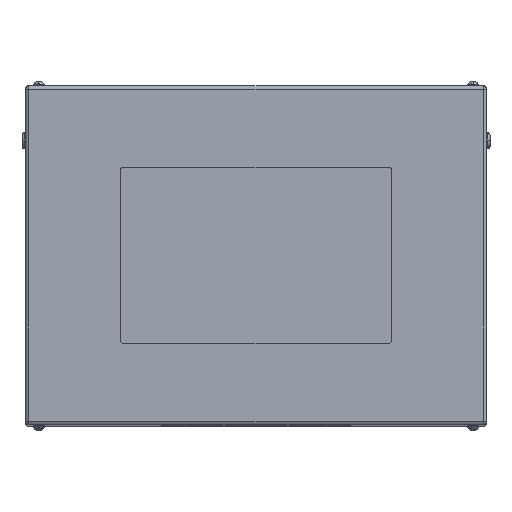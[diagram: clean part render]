
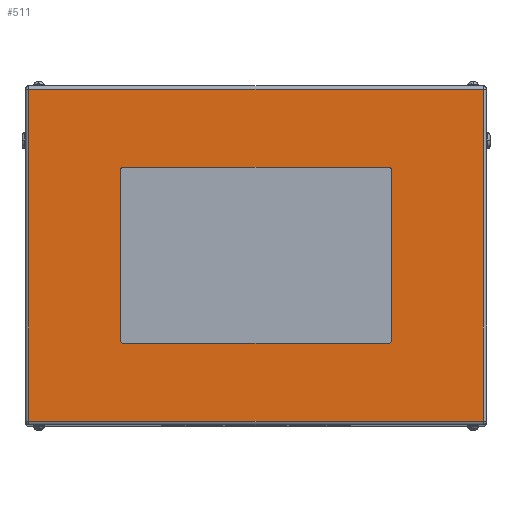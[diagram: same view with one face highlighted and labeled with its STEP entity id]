
A CAD part, top view. The second image highlights one B-rep face of the part: STEP entity #511.
In plain terms, the highlighted planar face has unit normal (0, 0, 1).
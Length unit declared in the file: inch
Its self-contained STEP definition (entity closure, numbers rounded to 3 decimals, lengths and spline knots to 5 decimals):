
#191 = VERTEX_POINT ( 'NONE', #4649 ) ;
#344 = AXIS2_PLACEMENT_3D ( 'NONE', #10480, #17794, #11862 ) ;
#511 = ADVANCED_FACE ( 'NONE', ( #1662, #16263 ), #16678, .F. ) ;
#546 = CARTESIAN_POINT ( 'NONE',  ( 16.734, -12.234, 29.5 ) ) ;
#931 = EDGE_CURVE ( 'NONE', #14119, #14737, #7476, .T. ) ;
#1243 = CARTESIAN_POINT ( 'NONE',  ( -16.734, 12.5, 29.5 ) ) ;
#1270 = EDGE_CURVE ( 'NONE', #7203, #14119, #6294, .T. ) ;
#1452 = LINE ( 'NONE', #14943, #1657 ) ;
#1657 = VECTOR ( 'NONE', #15064, 39.37008 ) ;
#1662 = FACE_BOUND ( 'NONE', #14121, .T. ) ;
#1960 = VERTEX_POINT ( 'NONE', #11572 ) ;
#2141 = ORIENTED_EDGE ( 'NONE', *, *, #16675, .F. ) ;
#2163 = AXIS2_PLACEMENT_3D ( 'NONE', #10614, #13468, #3407 ) ;
#2394 = ORIENTED_EDGE ( 'NONE', *, *, #12481, .T. ) ;
#2455 = DIRECTION ( 'NONE',  ( -1., 0., 0. ) ) ;
#2483 = DIRECTION ( 'NONE',  ( 0., -1., 0. ) ) ;
#2638 = LINE ( 'NONE', #4046, #17712 ) ;
#2840 = DIRECTION ( 'NONE',  ( 0., -1., 0. ) ) ;
#2893 = DIRECTION ( 'NONE',  ( -1., 0., 0. ) ) ;
#2964 = CARTESIAN_POINT ( 'NONE',  ( 10., 6.25, 29.5 ) ) ;
#3104 = CARTESIAN_POINT ( 'NONE',  ( -16.734, -12.234, 29.5 ) ) ;
#3183 = CARTESIAN_POINT ( 'NONE',  ( 16.734, 12.234, 29.5 ) ) ;
#3391 = DIRECTION ( 'NONE',  ( 1., 0., 0. ) ) ;
#3407 = DIRECTION ( 'NONE',  ( 1., 0., 0. ) ) ;
#3830 = DIRECTION ( 'NONE',  ( -1., 0., 0. ) ) ;
#3847 = VECTOR ( 'NONE', #14838, 39.37008 ) ;
#4046 = CARTESIAN_POINT ( 'NONE',  ( 16.734, -12.234, 29.5 ) ) ;
#4155 = CARTESIAN_POINT ( 'NONE',  ( -10., 6.25, 29.5 ) ) ;
#4294 = LINE ( 'NONE', #11894, #6534 ) ;
#4360 = ORIENTED_EDGE ( 'NONE', *, *, #1270, .F. ) ;
#4528 = EDGE_CURVE ( 'NONE', #16062, #6515, #15271, .T. ) ;
#4531 = EDGE_CURVE ( 'NONE', #13647, #16062, #17322, .T. ) ;
#4649 = CARTESIAN_POINT ( 'NONE',  ( 9.75, -6.5, 29.5 ) ) ;
#4663 = CARTESIAN_POINT ( 'NONE',  ( 10., 6.25, 29.5 ) ) ;
#4720 = VERTEX_POINT ( 'NONE', #10642 ) ;
#5613 = LINE ( 'NONE', #1243, #14387 ) ;
#6119 = EDGE_CURVE ( 'NONE', #4720, #13647, #17567, .T. ) ;
#6294 = LINE ( 'NONE', #4155, #10533 ) ;
#6515 = VERTEX_POINT ( 'NONE', #15702 ) ;
#6534 = VECTOR ( 'NONE', #16448, 39.37008 ) ;
#6666 = ORIENTED_EDGE ( 'NONE', *, *, #931, .F. ) ;
#6737 = CARTESIAN_POINT ( 'NONE',  ( 17., 12.234, 29.5 ) ) ;
#6744 = CARTESIAN_POINT ( 'NONE',  ( 17., 12.5, 29.5 ) ) ;
#7203 = VERTEX_POINT ( 'NONE', #17859 ) ;
#7476 = CIRCLE ( 'NONE', #344, 0.25 ) ;
#7815 = DIRECTION ( 'NONE',  ( 0., 0., 1. ) ) ;
#7884 = AXIS2_PLACEMENT_3D ( 'NONE', #12757, #18606, #2893 ) ;
#8010 = CIRCLE ( 'NONE', #14654, 0.25 ) ;
#8088 = EDGE_LOOP ( 'NONE', ( #10643, #14162, #15820, #2394 ) ) ;
#8198 = DIRECTION ( 'NONE',  ( 0., 0., -1. ) ) ;
#8588 = ORIENTED_EDGE ( 'NONE', *, *, #4531, .F. ) ;
#9813 = EDGE_CURVE ( 'NONE', #12215, #17089, #1452, .T. ) ;
#9831 = CARTESIAN_POINT ( 'NONE',  ( -10., -6.25, 29.5 ) ) ;
#9859 = CARTESIAN_POINT ( 'NONE',  ( -9.75, 6.5, 29.5 ) ) ;
#10411 = CARTESIAN_POINT ( 'NONE',  ( -9.75, -6.5, 29.5 ) ) ;
#10480 = CARTESIAN_POINT ( 'NONE',  ( -9.75, -6.25, 29.5 ) ) ;
#10523 = CARTESIAN_POINT ( 'NONE',  ( -9.75, 6.25, 29.5 ) ) ;
#10533 = VECTOR ( 'NONE', #2840, 39.37008 ) ;
#10614 = CARTESIAN_POINT ( 'NONE',  ( 9.75, -6.25, 29.5 ) ) ;
#10643 = ORIENTED_EDGE ( 'NONE', *, *, #14143, .T. ) ;
#10642 = CARTESIAN_POINT ( 'NONE',  ( 10., -6.25, 29.5 ) ) ;
#11244 = CARTESIAN_POINT ( 'NONE',  ( 9.75, 6.5, 29.5 ) ) ;
#11443 = VECTOR ( 'NONE', #3830, 39.37008 ) ;
#11476 = LINE ( 'NONE', #6737, #15767 ) ;
#11572 = CARTESIAN_POINT ( 'NONE',  ( -16.734, 12.234, 29.5 ) ) ;
#11856 = CIRCLE ( 'NONE', #2163, 0.25 ) ;
#11862 = DIRECTION ( 'NONE',  ( 1., 0., 0. ) ) ;
#11894 = CARTESIAN_POINT ( 'NONE',  ( -9.75, -6.5, 29.5 ) ) ;
#12215 = VERTEX_POINT ( 'NONE', #546 ) ;
#12481 = EDGE_CURVE ( 'NONE', #17089, #1960, #11476, .T. ) ;
#12600 = AXIS2_PLACEMENT_3D ( 'NONE', #6744, #8198, #18066 ) ;
#12724 = ORIENTED_EDGE ( 'NONE', *, *, #14339, .F. ) ;
#12757 = CARTESIAN_POINT ( 'NONE',  ( 9.75, 6.25, 29.5 ) ) ;
#13270 = ORIENTED_EDGE ( 'NONE', *, *, #6119, .F. ) ;
#13468 = DIRECTION ( 'NONE',  ( 0., 0., 1. ) ) ;
#13647 = VERTEX_POINT ( 'NONE', #2964 ) ;
#13743 = EDGE_CURVE ( 'NONE', #14737, #191, #4294, .T. ) ;
#14107 = ORIENTED_EDGE ( 'NONE', *, *, #4528, .F. ) ;
#14112 = DIRECTION ( 'NONE',  ( 1., 0., 0. ) ) ;
#14119 = VERTEX_POINT ( 'NONE', #9831 ) ;
#14121 = EDGE_LOOP ( 'NONE', ( #14343, #6666, #4360, #2141, #14107, #8588, #13270, #12724 ) ) ;
#14143 = EDGE_CURVE ( 'NONE', #1960, #14289, #5613, .T. ) ;
#14162 = ORIENTED_EDGE ( 'NONE', *, *, #16516, .T. ) ;
#14289 = VERTEX_POINT ( 'NONE', #3104 ) ;
#14339 = EDGE_CURVE ( 'NONE', #191, #4720, #11856, .T. ) ;
#14343 = ORIENTED_EDGE ( 'NONE', *, *, #13743, .F. ) ;
#14387 = VECTOR ( 'NONE', #2483, 39.37008 ) ;
#14654 = AXIS2_PLACEMENT_3D ( 'NONE', #10523, #7815, #3391 ) ;
#14737 = VERTEX_POINT ( 'NONE', #10411 ) ;
#14838 = DIRECTION ( 'NONE',  ( 0., 1., 0. ) ) ;
#14943 = CARTESIAN_POINT ( 'NONE',  ( 16.734, 12.5, 29.5 ) ) ;
#15064 = DIRECTION ( 'NONE',  ( 0., 1., 0. ) ) ;
#15271 = LINE ( 'NONE', #9859, #11443 ) ;
#15702 = CARTESIAN_POINT ( 'NONE',  ( -9.75, 6.5, 29.5 ) ) ;
#15767 = VECTOR ( 'NONE', #2455, 39.37008 ) ;
#15820 = ORIENTED_EDGE ( 'NONE', *, *, #9813, .T. ) ;
#16062 = VERTEX_POINT ( 'NONE', #11244 ) ;
#16263 = FACE_OUTER_BOUND ( 'NONE', #8088, .T. ) ;
#16448 = DIRECTION ( 'NONE',  ( 1., 0., 0. ) ) ;
#16516 = EDGE_CURVE ( 'NONE', #14289, #12215, #2638, .T. ) ;
#16675 = EDGE_CURVE ( 'NONE', #6515, #7203, #8010, .T. ) ;
#16678 = PLANE ( 'NONE',  #12600 ) ;
#17089 = VERTEX_POINT ( 'NONE', #3183 ) ;
#17322 = CIRCLE ( 'NONE', #7884, 0.25 ) ;
#17567 = LINE ( 'NONE', #4663, #3847 ) ;
#17712 = VECTOR ( 'NONE', #14112, 39.37008 ) ;
#17794 = DIRECTION ( 'NONE',  ( 0., 0., 1. ) ) ;
#17859 = CARTESIAN_POINT ( 'NONE',  ( -10., 6.25, 29.5 ) ) ;
#18066 = DIRECTION ( 'NONE',  ( -1., 0., 0. ) ) ;
#18606 = DIRECTION ( 'NONE',  ( 0., 0., 1. ) ) ;
